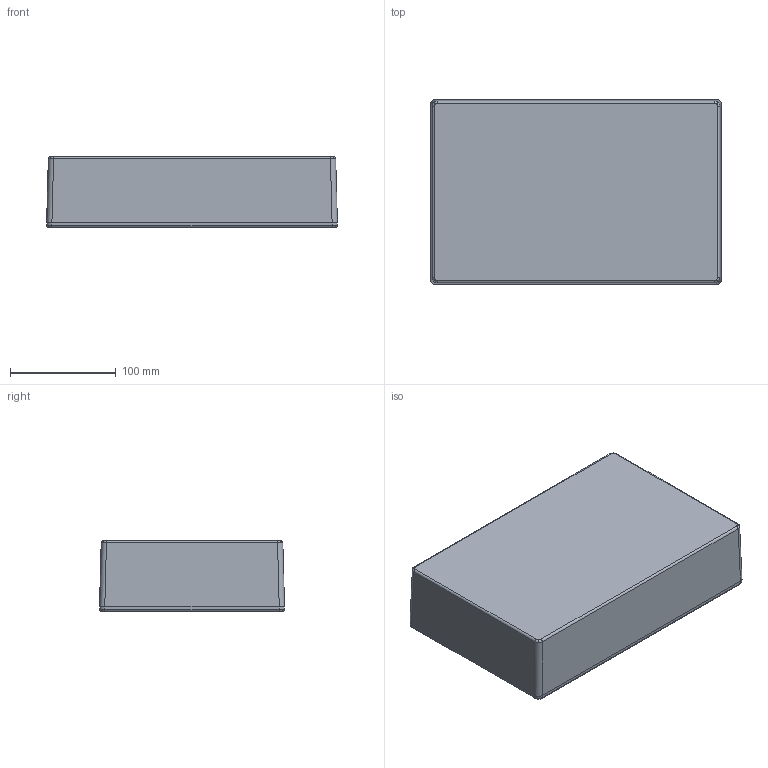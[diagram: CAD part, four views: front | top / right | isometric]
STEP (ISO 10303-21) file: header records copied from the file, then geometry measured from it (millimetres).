
FILE_DESCRIPTION(/* description */ (''),/* implementation_level */ '2;1');
FILE_NAME(/* name */ 'E:\Eng\Customer Service\Drawings\new 1550\STEP\1550J\1550J.iam.stp',/* time_stamp */ '2014-10-29T10:14:02-04:00',/* author */ ('tcook'),/* organization */ (''),/* preprocessor_version */ 'ST-DEVELOPER v15.2',/* originating_system */ 'Autodesk Inventor 2014',/* authorisation */ '');
FILE_SCHEMA (('AUTOMOTIVE_DESIGN { 1 0 10303 214 3 1 1 }'));
Products named in the file (4): 1550J BOX; 1550J LID; SC1550 (screw M3.5-0.6X 12mm FH); 1550J
Bounding box: 275 x 175 x 66.6 mm (x, y, z)
Volume: 393469.3 mm3; surface area: 305212 mm2
Topology: 8 solids, 8 shells, 1019 faces, 2693 edges, 1733 vertices
Faces by surface type: plane 391, bspline 344, cone 102, cylinder 96, torus 74, sphere 12
Full cylindrical faces by diameter (mm): 3 x6, 3.43 x6
Entity records: 43031 total; most frequent: CARTESIAN_POINT 23304, ORIENTED_EDGE 4558, DIRECTION 3136, EDGE_CURVE 2279, VERTEX_POINT 1497, LINE 1106, VECTOR 1106, AXIS2_PLACEMENT_3D 1015
